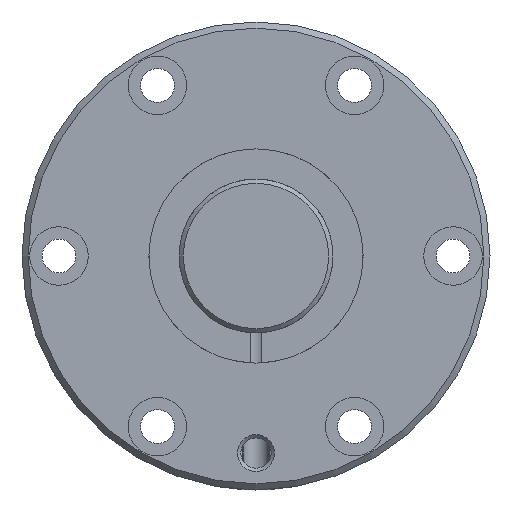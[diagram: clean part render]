
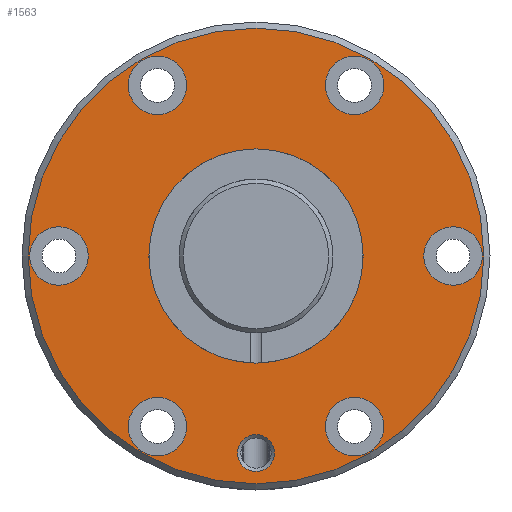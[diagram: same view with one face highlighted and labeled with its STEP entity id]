
A CAD part, left-side view. The second image highlights one B-rep face of the part: STEP entity #1563.
In plain terms, the highlighted planar face has unit normal (-1, 0, 0).
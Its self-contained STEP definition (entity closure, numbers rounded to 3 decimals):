
#392=ORIENTED_EDGE('',*,*,#709,.T.);
#393=ORIENTED_EDGE('',*,*,#787,.T.);
#394=ORIENTED_EDGE('',*,*,#788,.T.);
#395=ORIENTED_EDGE('',*,*,#789,.T.);
#396=ORIENTED_EDGE('',*,*,#790,.T.);
#397=ORIENTED_EDGE('',*,*,#791,.T.);
#398=ORIENTED_EDGE('',*,*,#792,.T.);
#399=ORIENTED_EDGE('',*,*,#793,.T.);
#400=ORIENTED_EDGE('',*,*,#786,.F.);
#709=EDGE_CURVE('',#915,#915,#1043,.T.);
#786=EDGE_CURVE('',#982,#982,#1062,.T.);
#787=EDGE_CURVE('',#983,#983,#1063,.F.);
#788=EDGE_CURVE('',#984,#984,#1064,.T.);
#789=EDGE_CURVE('',#985,#985,#1065,.T.);
#790=EDGE_CURVE('',#986,#986,#1066,.T.);
#791=EDGE_CURVE('',#987,#987,#1067,.T.);
#792=EDGE_CURVE('',#988,#988,#1068,.T.);
#793=EDGE_CURVE('',#989,#989,#1069,.T.);
#915=VERTEX_POINT('',#2576);
#982=VERTEX_POINT('',#2836);
#983=VERTEX_POINT('',#2839);
#984=VERTEX_POINT('',#2841);
#985=VERTEX_POINT('',#2843);
#986=VERTEX_POINT('',#2845);
#987=VERTEX_POINT('',#2847);
#988=VERTEX_POINT('',#2849);
#989=VERTEX_POINT('',#2851);
#1043=CIRCLE('',#1697,17.4);
#1062=CIRCLE('',#1728,37.);
#1063=CIRCLE('',#1730,4.75);
#1064=CIRCLE('',#1731,3.);
#1065=CIRCLE('',#1732,4.75);
#1066=CIRCLE('',#1733,4.75);
#1067=CIRCLE('',#1734,4.75);
#1068=CIRCLE('',#1735,4.75);
#1069=CIRCLE('',#1736,4.75);
#1181=EDGE_LOOP('',(#392));
#1182=EDGE_LOOP('',(#393));
#1183=EDGE_LOOP('',(#394));
#1184=EDGE_LOOP('',(#395));
#1185=EDGE_LOOP('',(#396));
#1186=EDGE_LOOP('',(#397));
#1187=EDGE_LOOP('',(#398));
#1188=EDGE_LOOP('',(#399));
#1189=EDGE_LOOP('',(#400));
#1351=FACE_BOUND('',#1181,.T.);
#1352=FACE_BOUND('',#1182,.T.);
#1353=FACE_BOUND('',#1183,.T.);
#1354=FACE_BOUND('',#1184,.T.);
#1355=FACE_BOUND('',#1185,.T.);
#1356=FACE_BOUND('',#1186,.T.);
#1357=FACE_BOUND('',#1187,.T.);
#1358=FACE_BOUND('',#1188,.T.);
#1359=FACE_BOUND('',#1189,.T.);
#1499=PLANE('',#1729);
#1563=ADVANCED_FACE('',(#1351,#1352,#1353,#1354,#1355,#1356,#1357,#1358,
#1359),#1499,.T.);
#1697=AXIS2_PLACEMENT_3D('',#2575,#1972,#1973);
#1728=AXIS2_PLACEMENT_3D('',#2835,#2084,#2085);
#1729=AXIS2_PLACEMENT_3D('',#2837,#2086,#2087);
#1730=AXIS2_PLACEMENT_3D('',#2838,#2088,#2089);
#1731=AXIS2_PLACEMENT_3D('',#2840,#2090,#2091);
#1732=AXIS2_PLACEMENT_3D('',#2842,#2092,#2093);
#1733=AXIS2_PLACEMENT_3D('',#2844,#2094,#2095);
#1734=AXIS2_PLACEMENT_3D('',#2846,#2096,#2097);
#1735=AXIS2_PLACEMENT_3D('',#2848,#2098,#2099);
#1736=AXIS2_PLACEMENT_3D('',#2850,#2100,#2101);
#1972=DIRECTION('',(1.,0.,0.));
#1973=DIRECTION('',(0.,0.,-1.));
#2084=DIRECTION('',(1.,0.,0.));
#2085=DIRECTION('',(0.,0.,-1.));
#2086=DIRECTION('',(-1.,0.,0.));
#2087=DIRECTION('',(0.,0.,1.));
#2088=DIRECTION('',(-1.,0.,0.));
#2089=DIRECTION('',(0.,0.,1.));
#2090=DIRECTION('',(1.,0.,0.));
#2091=DIRECTION('',(0.,0.,-1.));
#2092=DIRECTION('',(1.,0.,0.));
#2093=DIRECTION('',(0.,0.,-1.));
#2094=DIRECTION('',(1.,0.,0.));
#2095=DIRECTION('',(0.,0.,-1.));
#2096=DIRECTION('',(1.,0.,0.));
#2097=DIRECTION('',(0.,0.,-1.));
#2098=DIRECTION('',(1.,0.,0.));
#2099=DIRECTION('',(0.,0.,-1.));
#2100=DIRECTION('',(1.,0.,0.));
#2101=DIRECTION('',(0.,0.,-1.));
#2575=CARTESIAN_POINT('',(0.,0.,0.));
#2576=CARTESIAN_POINT('',(0.,0.,-17.4));
#2835=CARTESIAN_POINT('',(0.,0.,0.));
#2836=CARTESIAN_POINT('',(0.,0.,-37.));
#2837=CARTESIAN_POINT('',(0.,37.,0.));
#2838=CARTESIAN_POINT('',(0.,32.,0.));
#2839=CARTESIAN_POINT('',(0.,32.,4.75));
#2840=CARTESIAN_POINT('',(0.,0.,-32.));
#2841=CARTESIAN_POINT('',(0.,0.,-35.));
#2842=CARTESIAN_POINT('',(0.,16.,27.713));
#2843=CARTESIAN_POINT('',(0.,16.,22.963));
#2844=CARTESIAN_POINT('',(0.,-16.,-27.713));
#2845=CARTESIAN_POINT('',(0.,-16.,-32.463));
#2846=CARTESIAN_POINT('',(0.,-16.,27.713));
#2847=CARTESIAN_POINT('',(0.,-16.,22.963));
#2848=CARTESIAN_POINT('',(0.,16.,-27.713));
#2849=CARTESIAN_POINT('',(0.,16.,-32.463));
#2850=CARTESIAN_POINT('',(0.,-32.,0.));
#2851=CARTESIAN_POINT('',(0.,-32.,-4.75));
